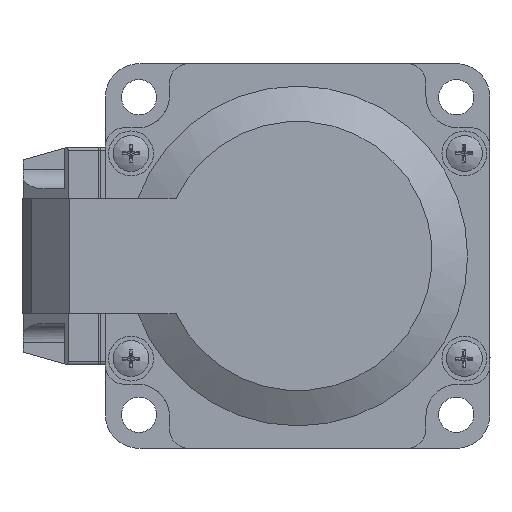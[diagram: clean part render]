
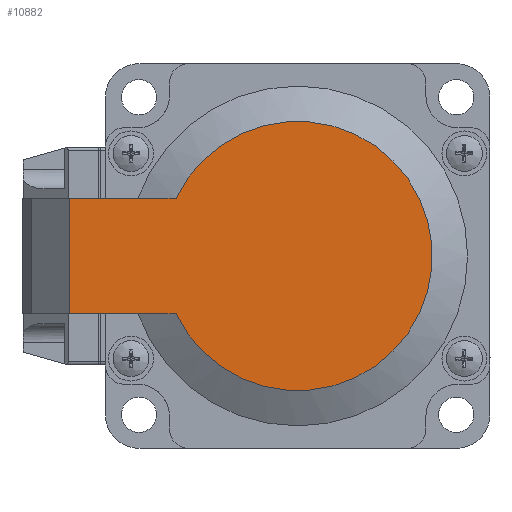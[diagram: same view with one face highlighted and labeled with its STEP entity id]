
A CAD part, front view. The second image highlights one B-rep face of the part: STEP entity #10882.
In plain terms, the highlighted planar face has unit normal (0, -1, 0).
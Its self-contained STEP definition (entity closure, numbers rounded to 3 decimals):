
#533 = CARTESIAN_POINT ( 'NONE',  ( -35.583, -106., 9. ) ) ;
#626 = VERTEX_POINT ( 'NONE', #533 ) ;
#1513 = VECTOR ( 'NONE', #15419, 1000. ) ;
#1882 = VERTEX_POINT ( 'NONE', #5198 ) ;
#1947 = CARTESIAN_POINT ( 'NONE',  ( -35.583, -106., -9. ) ) ;
#2063 = CARTESIAN_POINT ( 'NONE',  ( -18.974, -106., -9. ) ) ;
#2139 = CARTESIAN_POINT ( 'NONE',  ( -35.583, -106., 9. ) ) ;
#2695 = EDGE_CURVE ( 'NONE', #6769, #8758, #13525, .T. ) ;
#2714 = EDGE_CURVE ( 'NONE', #8758, #626, #10807, .T. ) ;
#2918 = CARTESIAN_POINT ( 'NONE',  ( -18.974, -106., 9. ) ) ;
#3121 = ORIENTED_EDGE ( 'NONE', *, *, #2695, .T. ) ;
#3364 = FACE_OUTER_BOUND ( 'NONE', #8965, .T. ) ;
#3532 = ORIENTED_EDGE ( 'NONE', *, *, #8923, .F. ) ;
#3612 = LINE ( 'NONE', #1947, #1513 ) ;
#4068 = VECTOR ( 'NONE', #8376, 1000. ) ;
#4839 = CARTESIAN_POINT ( 'NONE',  ( -35.583, -106., -9. ) ) ;
#5198 = CARTESIAN_POINT ( 'NONE',  ( -35.583, -106., -9. ) ) ;
#5379 = ORIENTED_EDGE ( 'NONE', *, *, #2714, .T. ) ;
#5652 = ORIENTED_EDGE ( 'NONE', *, *, #14961, .F. ) ;
#6769 = VERTEX_POINT ( 'NONE', #2063 ) ;
#7062 = DIRECTION ( 'NONE',  ( -1., 0., 0. ) ) ;
#7472 = LINE ( 'NONE', #4839, #15585 ) ;
#8237 = AXIS2_PLACEMENT_3D ( 'NONE', #9866, #13437, #14671 ) ;
#8376 = DIRECTION ( 'NONE',  ( -1., 0., 0. ) ) ;
#8415 = PLANE ( 'NONE',  #8237 ) ;
#8758 = VERTEX_POINT ( 'NONE', #2918 ) ;
#8923 = EDGE_CURVE ( 'NONE', #1882, #626, #3612, .T. ) ;
#8965 = EDGE_LOOP ( 'NONE', ( #5652, #3121, #5379, #3532 ) ) ;
#9866 = CARTESIAN_POINT ( 'NONE',  ( 0., -106., -21. ) ) ;
#10807 = LINE ( 'NONE', #2139, #4068 ) ;
#10882 = ADVANCED_FACE ( 'NONE', ( #3364 ), #8415, .T. ) ;
#11975 = DIRECTION ( 'NONE',  ( 0., 0., -1. ) ) ;
#12193 = DIRECTION ( 'NONE',  ( 0., -1., 0. ) ) ;
#13437 = DIRECTION ( 'NONE',  ( 0., -1., 0. ) ) ;
#13525 = CIRCLE ( 'NONE', #15372, 21. ) ;
#14483 = CARTESIAN_POINT ( 'NONE',  ( 0., -106., 0. ) ) ;
#14671 = DIRECTION ( 'NONE',  ( 0., 0., -1. ) ) ;
#14961 = EDGE_CURVE ( 'NONE', #6769, #1882, #7472, .T. ) ;
#15372 = AXIS2_PLACEMENT_3D ( 'NONE', #14483, #12193, #11975 ) ;
#15419 = DIRECTION ( 'NONE',  ( 0., 0., 1. ) ) ;
#15585 = VECTOR ( 'NONE', #7062, 1000. ) ;
